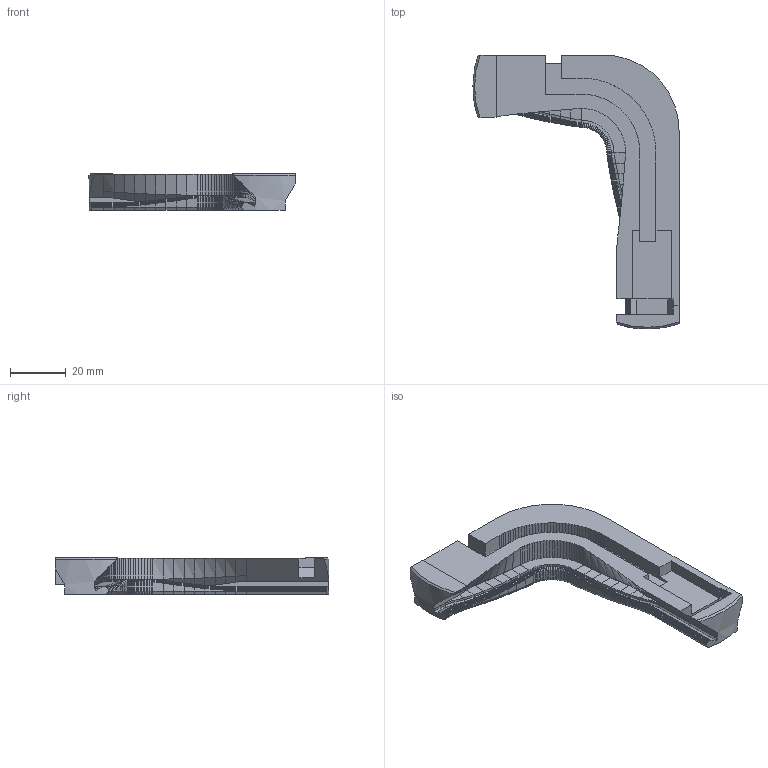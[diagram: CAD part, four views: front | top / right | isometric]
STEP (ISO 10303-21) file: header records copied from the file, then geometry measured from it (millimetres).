
FILE_DESCRIPTION(('Open CASCADE Model'),'2;1');
FILE_NAME('Open CASCADE Shape Model','2026-10-27T10:19:11',('Author'),( 'Open CASCADE'),'Open CASCADE STEP processor 8.0','build123d', 'Unknown');
FILE_SCHEMA(('AUTOMOTIVE_DESIGN { 1 0 10303 214 1 1 1 1 }'));
Products named in the file (1): SOLID
Bounding box: 74.1 x 98.5 x 13.25 mm (x, y, z)
Volume: 28479.6 mm3; surface area: 12464.5 mm2
Topology: 1 solids, 1 shells, 1520 faces, 3303 edges, 1787 vertices
Faces by surface type: bspline 1208, plane 303, cylinder 6, cone 3
Full cylindrical faces by diameter (mm): 4 x2
Entity records: 80008 total; most frequent: CARTESIAN_POINT 21244, DIRECTION 7472, LINE 6617, VECTOR 6617, ORIENTED_EDGE 6606, PCURVE 6606, DEFINITIONAL_REPRESENTATION 6606, EDGE_CURVE 3303
